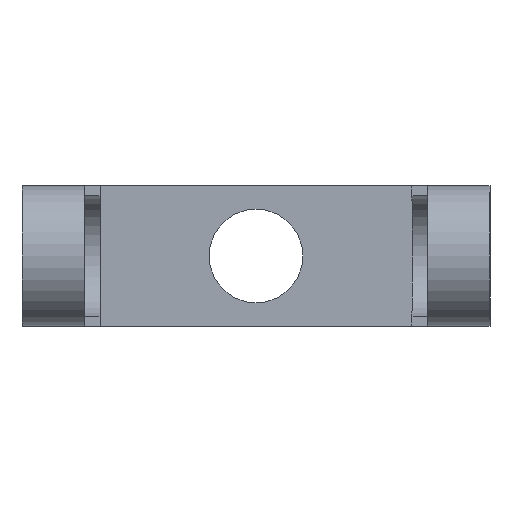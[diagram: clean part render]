
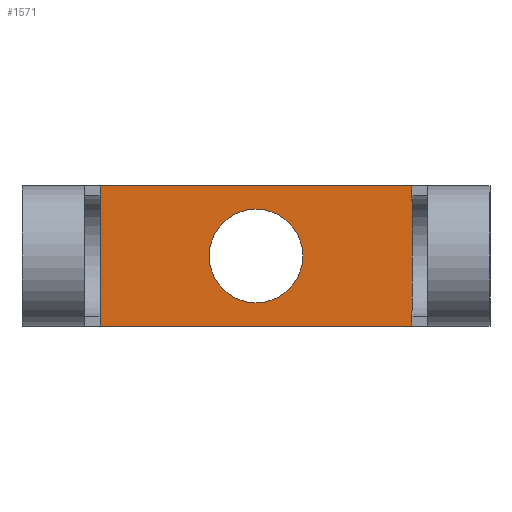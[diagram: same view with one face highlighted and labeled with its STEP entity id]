
A CAD part, left-side view. The second image highlights one B-rep face of the part: STEP entity #1571.
In plain terms, the highlighted planar face has unit normal (-1, 0, 0).
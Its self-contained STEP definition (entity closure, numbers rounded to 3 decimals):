
#79=CIRCLE('',#1698,2.4);
#269=ORIENTED_EDGE('',*,*,#691,.T.);
#270=ORIENTED_EDGE('',*,*,#672,.T.);
#271=ORIENTED_EDGE('',*,*,#687,.F.);
#272=ORIENTED_EDGE('',*,*,#692,.F.);
#273=ORIENTED_EDGE('',*,*,#673,.T.);
#672=EDGE_CURVE('',#878,#885,#1030,.T.);
#673=EDGE_CURVE('',#886,#878,#1031,.T.);
#687=EDGE_CURVE('',#897,#885,#1045,.T.);
#691=EDGE_CURVE('',#899,#899,#79,.T.);
#692=EDGE_CURVE('',#886,#897,#1048,.T.);
#878=VERTEX_POINT('',#2494);
#885=VERTEX_POINT('',#2507);
#886=VERTEX_POINT('',#2511);
#897=VERTEX_POINT('',#2536);
#899=VERTEX_POINT('',#2545);
#1030=LINE('',#2508,#1174);
#1031=LINE('',#2510,#1175);
#1045=LINE('',#2537,#1189);
#1048=LINE('',#2546,#1192);
#1174=VECTOR('',#1975,1000.);
#1175=VECTOR('',#1978,1000.);
#1189=VECTOR('',#1994,1000.);
#1192=VECTOR('',#2005,1000.);
#1272=EDGE_LOOP('',(#269));
#1273=EDGE_LOOP('',(#270,#271,#272,#273));
#1396=FACE_BOUND('',#1272,.T.);
#1397=FACE_BOUND('',#1273,.T.);
#1512=PLANE('',#1697);
#1571=ADVANCED_FACE('',(#1396,#1397),#1512,.T.);
#1697=AXIS2_PLACEMENT_3D('',#2543,#2001,#2002);
#1698=AXIS2_PLACEMENT_3D('',#2544,#2003,#2004);
#1975=DIRECTION('',(0.,0.,-1.));
#1978=DIRECTION('',(0.,1.,0.));
#1994=DIRECTION('',(0.,1.,0.));
#2001=DIRECTION('',(-1.,0.,0.));
#2002=DIRECTION('',(0.,-1.,0.));
#2003=DIRECTION('',(1.,0.,0.));
#2004=DIRECTION('',(0.,1.,0.));
#2005=DIRECTION('',(0.,0.,-1.));
#2494=CARTESIAN_POINT('',(0.,8.,3.6));
#2507=CARTESIAN_POINT('',(0.,8.,-3.6));
#2508=CARTESIAN_POINT('',(0.,8.,3.6));
#2510=CARTESIAN_POINT('',(0.,8.,3.6));
#2511=CARTESIAN_POINT('',(0.,-8.,3.6));
#2536=CARTESIAN_POINT('',(0.,-8.,-3.6));
#2537=CARTESIAN_POINT('',(0.,8.,-3.6));
#2543=CARTESIAN_POINT('',(0.,8.,3.6));
#2544=CARTESIAN_POINT('',(0.,0.,0.));
#2545=CARTESIAN_POINT('',(0.,2.4,0.));
#2546=CARTESIAN_POINT('',(0.,-8.,3.6));
